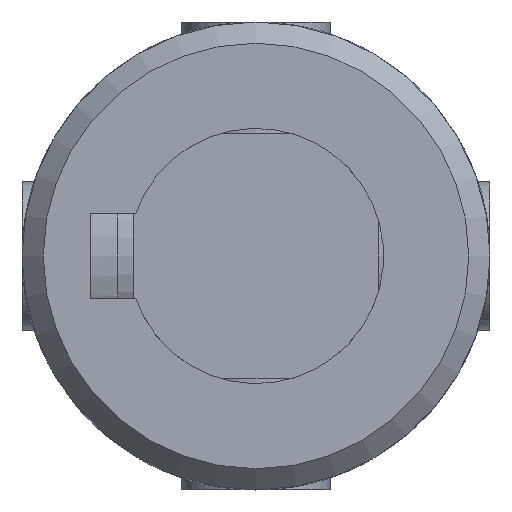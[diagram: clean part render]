
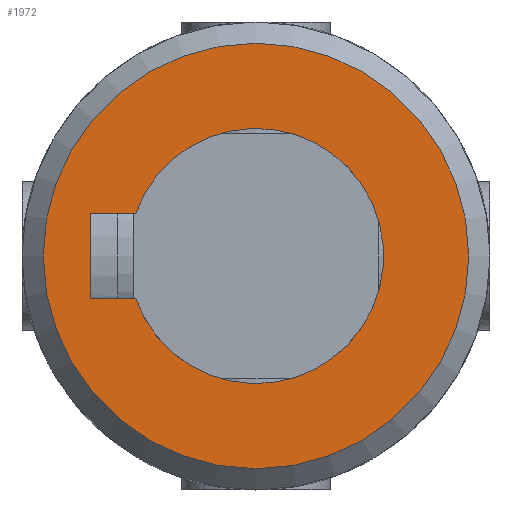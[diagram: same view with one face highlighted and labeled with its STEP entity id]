
A CAD part, front view. The second image highlights one B-rep face of the part: STEP entity #1972.
In plain terms, the highlighted planar face has unit normal (0, -1, 0).
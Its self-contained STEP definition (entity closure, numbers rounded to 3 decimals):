
#140=LINE('',#3625,#207);
#144=LINE('',#3697,#211);
#145=LINE('',#3700,#212);
#207=VECTOR('',#2545,2.143);
#211=VECTOR('',#2555,4.);
#212=VECTOR('',#2560,2.143);
#345=FACE_BOUND('',#634,.T.);
#476=FACE_OUTER_BOUND('',#633,.T.);
#633=EDGE_LOOP('',(#1602));
#634=EDGE_LOOP('',(#1603,#1604,#1605,#1606));
#752=CIRCLE('',#2151,6.);
#759=CIRCLE('',#2163,10.);
#903=VERTEX_POINT('',#3622);
#904=VERTEX_POINT('',#3624);
#908=VERTEX_POINT('',#3679);
#910=VERTEX_POINT('',#3695);
#916=VERTEX_POINT('',#3746);
#1138=EDGE_CURVE('',#904,#903,#140,.T.);
#1143=EDGE_CURVE('',#908,#904,#752,.T.);
#1147=EDGE_CURVE('',#903,#910,#144,.T.);
#1149=EDGE_CURVE('',#910,#908,#145,.T.);
#1157=EDGE_CURVE('',#916,#916,#759,.T.);
#1602=ORIENTED_EDGE('',*,*,#1157,.F.);
#1603=ORIENTED_EDGE('',*,*,#1138,.T.);
#1604=ORIENTED_EDGE('',*,*,#1147,.T.);
#1605=ORIENTED_EDGE('',*,*,#1149,.T.);
#1606=ORIENTED_EDGE('',*,*,#1143,.T.);
#1872=PLANE('',#2165);
#1972=ADVANCED_FACE('',(#476,#345),#1872,.F.);
#2151=AXIS2_PLACEMENT_3D('',#3680,#2549,#2550);
#2163=AXIS2_PLACEMENT_3D('',#3747,#2577,#2578);
#2165=AXIS2_PLACEMENT_3D('',#3923,#2585,#2586);
#2545=DIRECTION('',(0.,0.,-1.));
#2549=DIRECTION('center_axis',(0.,1.,0.));
#2550=DIRECTION('ref_axis',(-0.333,0.,0.943));
#2555=DIRECTION('',(-1.,0.,0.));
#2560=DIRECTION('',(0.,0.,1.));
#2577=DIRECTION('center_axis',(0.,1.,0.));
#2578=DIRECTION('ref_axis',(1.,0.,0.));
#2585=DIRECTION('center_axis',(0.,1.,0.));
#2586=DIRECTION('ref_axis',(0.,0.,1.));
#3622=CARTESIAN_POINT('',(2.,-36.5,-7.8));
#3624=CARTESIAN_POINT('',(2.,-36.5,-5.657));
#3625=CARTESIAN_POINT('',(2.,-36.5,-2.828));
#3679=CARTESIAN_POINT('',(-2.,-36.5,-5.657));
#3680=CARTESIAN_POINT('Origin',(0.,-36.5,0.));
#3695=CARTESIAN_POINT('',(-2.,-36.5,-7.8));
#3697=CARTESIAN_POINT('',(1.,-36.5,-7.8));
#3700=CARTESIAN_POINT('',(-2.,-36.5,-3.9));
#3746=CARTESIAN_POINT('',(-10.,-36.5,0.));
#3747=CARTESIAN_POINT('Origin',(0.,-36.5,0.));
#3923=CARTESIAN_POINT('Origin',(0.,-36.5,0.));
